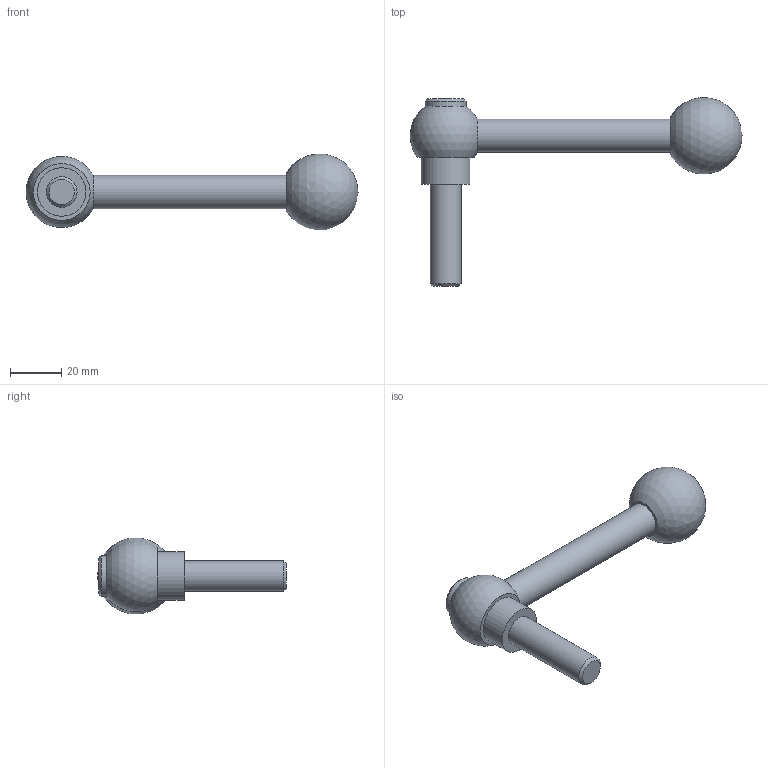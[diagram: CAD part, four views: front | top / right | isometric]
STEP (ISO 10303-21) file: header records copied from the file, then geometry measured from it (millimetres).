
FILE_DESCRIPTION( ( 'STEP AP203' ), '1' );
FILE_NAME( 'C:/Temp/Ganter_Step_05_03_2020/data/2_1/gn_6337_3/gn_6337_3_ms/gn_6337_3_ms_m/Adjustable clamping lever with bolt GN 6337.3-28-M12-40-M.stp', '2020-03-05T11:41:15', ( 'License CC BY-ND 4.0' ), ( 'CADENAS' ), ' ', 'PARTsolutions', ' ' );
FILE_SCHEMA( ( 'CONFIG_CONTROL_DESIGN' ) );
Length unit declared in the file: millimetre
Products named in the file (1): _Adjustable clamping lever with bolt GN 6337.3-28-M12-40-M
Bounding box: 129.99 x 73.93 x 29.7 mm (x, y, z)
Volume: 42019.9 mm3; surface area: 10206.6 mm2
Topology: 1 solids, 1 shells, 13 faces, 26 edges, 17 vertices
Faces by surface type: plane 5, cylinder 4, cone 2, sphere 2
Full cylindrical faces by diameter (mm): 12 x1, 13 x1, 15.969 x1, 19 x1
Entity records: 302 total; most frequent: DIRECTION 52, CARTESIAN_POINT 39, AXIS2_PLACEMENT_3D 26, EDGE_LOOP 24, ORIENTED_EDGE 24, FACE_OUTER_BOUND 18, ADVANCED_FACE 13, VERTEX_POINT 13
